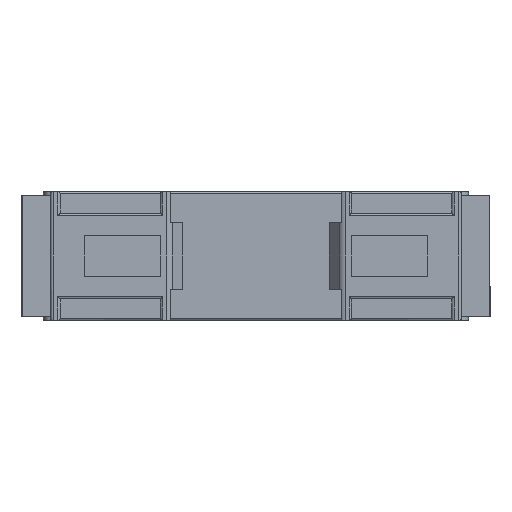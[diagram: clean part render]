
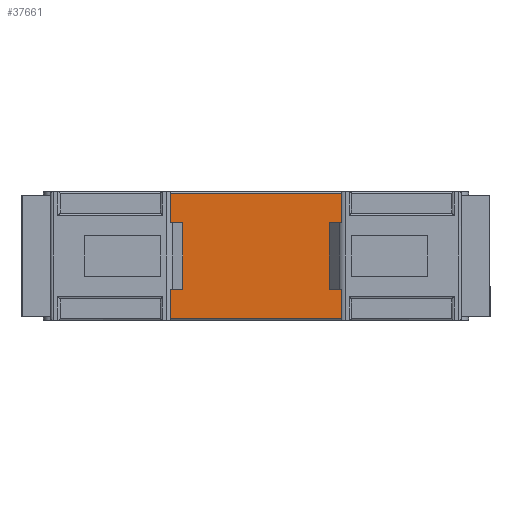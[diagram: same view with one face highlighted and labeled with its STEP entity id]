
A CAD part, left-side view. The second image highlights one B-rep face of the part: STEP entity #37661.
In plain terms, the highlighted planar face has unit normal (-1, 0, 0).
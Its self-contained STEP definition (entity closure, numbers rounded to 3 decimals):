
#3801 = VERTEX_POINT ( 'NONE', #13472 ) ;
#4254 = CARTESIAN_POINT ( 'NONE',  ( 7.62, 27.743, -13. ) ) ;
#7098 = PLANE ( 'NONE',  #32816 ) ;
#8907 = DIRECTION ( 'NONE',  ( 0., 0., -1. ) ) ;
#10591 = CARTESIAN_POINT ( 'NONE',  ( 7.62, 63.743, 13. ) ) ;
#10913 = CARTESIAN_POINT ( 'NONE',  ( 7.62, 27.743, 0. ) ) ;
#11108 = LINE ( 'NONE', #35675, #21192 ) ;
#11864 = EDGE_CURVE ( 'NONE', #37618, #12163, #14487, .T. ) ;
#12163 = VERTEX_POINT ( 'NONE', #21028 ) ;
#12992 = DIRECTION ( 'NONE',  ( 0., 0., -1. ) ) ;
#13472 = CARTESIAN_POINT ( 'NONE',  ( 7.62, 63.743, -13. ) ) ;
#14487 = LINE ( 'NONE', #26711, #33499 ) ;
#14692 = DIRECTION ( 'NONE',  ( 0., -1., 0. ) ) ;
#14936 = LINE ( 'NONE', #17338, #31565 ) ;
#17338 = CARTESIAN_POINT ( 'NONE',  ( 7.62, 36.743, -13. ) ) ;
#18829 = EDGE_CURVE ( 'NONE', #39409, #3801, #14936, .T. ) ;
#20160 = CARTESIAN_POINT ( 'NONE',  ( 7.62, 63.743, 0. ) ) ;
#21028 = CARTESIAN_POINT ( 'NONE',  ( 7.62, 27.743, 13. ) ) ;
#21192 = VECTOR ( 'NONE', #12992, 1000. ) ;
#22258 = ORIENTED_EDGE ( 'NONE', *, *, #18829, .F. ) ;
#24580 = LINE ( 'NONE', #20160, #33468 ) ;
#24643 = ORIENTED_EDGE ( 'NONE', *, *, #37944, .T. ) ;
#26711 = CARTESIAN_POINT ( 'NONE',  ( 7.62, 36.743, 13. ) ) ;
#26997 = ORIENTED_EDGE ( 'NONE', *, *, #36191, .F. ) ;
#27122 = ORIENTED_EDGE ( 'NONE', *, *, #11864, .F. ) ;
#31565 = VECTOR ( 'NONE', #32618, 1000. ) ;
#32618 = DIRECTION ( 'NONE',  ( 0., 1., 0. ) ) ;
#32816 = AXIS2_PLACEMENT_3D ( 'NONE', #10913, #37421, #14692 ) ;
#33468 = VECTOR ( 'NONE', #8907, 1000. ) ;
#33499 = VECTOR ( 'NONE', #34312, 1000. ) ;
#34312 = DIRECTION ( 'NONE',  ( 0., -1., 0. ) ) ;
#35262 = FACE_OUTER_BOUND ( 'NONE', #35451, .T. ) ;
#35451 = EDGE_LOOP ( 'NONE', ( #22258, #26997, #27122, #24643 ) ) ;
#35675 = CARTESIAN_POINT ( 'NONE',  ( 7.62, 27.743, 0. ) ) ;
#36191 = EDGE_CURVE ( 'NONE', #12163, #39409, #11108, .T. ) ;
#37421 = DIRECTION ( 'NONE',  ( -1., 0., 0. ) ) ;
#37618 = VERTEX_POINT ( 'NONE', #10591 ) ;
#37661 = ADVANCED_FACE ( 'NONE', ( #35262 ), #7098, .T. ) ;
#37944 = EDGE_CURVE ( 'NONE', #37618, #3801, #24580, .T. ) ;
#39409 = VERTEX_POINT ( 'NONE', #4254 ) ;
